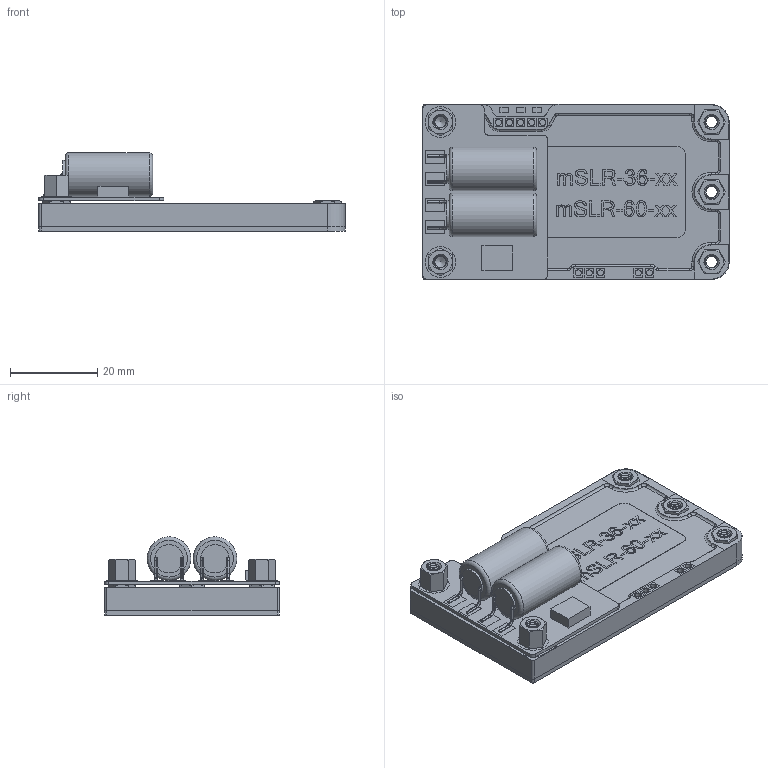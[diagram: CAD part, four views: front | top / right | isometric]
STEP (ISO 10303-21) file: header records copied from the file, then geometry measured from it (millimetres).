
FILE_DESCRIPTION(/* description */ ('Alibre Inc.'),/* implementation_level */ '2;1');
FILE_NAME(/* name */ 'export-296BCA4A-F2B2-497B-96CA-B6C201B31A0A',/* time_stamp */ '2021-05-10T20:03:54+02:00',/* author */ (''),/* organization */ (''),/* preprocessor_version */ 'ST-DEVELOPER v17',/* originating_system */ 'Alibre',/* authorisation */ '');
FILE_SCHEMA (('AUTOMOTIVE_DESIGN'));
Length unit declared in the file: millimetre
Bounding box: 70 x 40 x 17.91 mm (x, y, z)
Volume: 20687.1 mm3; surface area: 18634.8 mm2
Topology: 16 solids, 16 shells, 873 faces, 2273 edges, 1502 vertices
Faces by surface type: plane 446, bspline 184, cylinder 156, torus 59, cone 28
Full cylindrical faces by diameter (mm): 1.4 x10, 3 x18, 3.2 x7, 6.5 x4, 7 x4, 10 x2
Entity records: 27284 total; most frequent: CARTESIAN_POINT 9611, ORIENTED_EDGE 3900, DIRECTION 2623, EDGE_CURVE 1950, VERTEX_POINT 1307, VECTOR 1181, LINE 1181, AXIS2_PLACEMENT_3D 941
